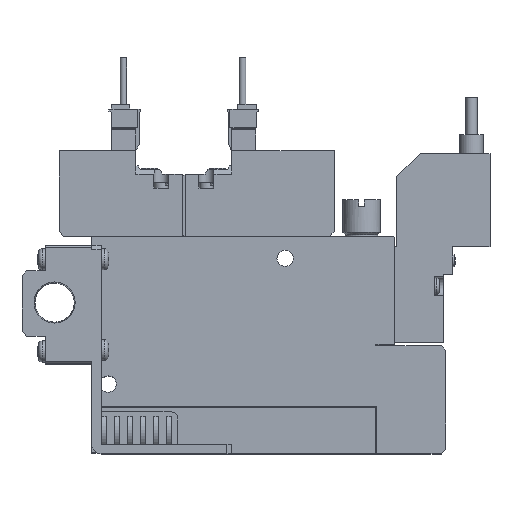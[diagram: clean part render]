
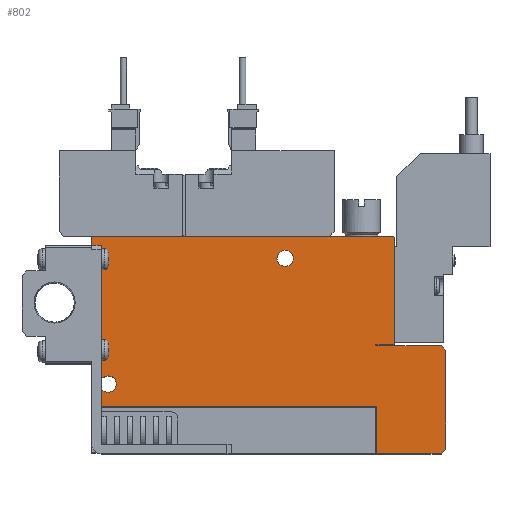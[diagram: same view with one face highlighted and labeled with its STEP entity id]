
A CAD part, top view. The second image highlights one B-rep face of the part: STEP entity #802.
In plain terms, the highlighted planar face has unit normal (0, 0, 1).
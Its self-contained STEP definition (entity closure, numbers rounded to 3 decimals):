
#802=ADVANCED_FACE('',(#1915,#1916,#1917),#1918,.F.);
#1915=FACE_OUTER_BOUND('',#3261,.T.);
#1916=FACE_BOUND('',#3262,.T.);
#1917=FACE_BOUND('',#3263,.T.);
#1918=PLANE('',#3264);
#3261=EDGE_LOOP('',(#7278,#7279,#7280,#7281,#7282,#7283,#7284,#7285,#7286,#7287,#7288,#7289,#7290,#7291));
#3262=EDGE_LOOP('',(#7292));
#3263=EDGE_LOOP('',(#7293));
#3264=AXIS2_PLACEMENT_3D('',#7294,#7295,#7296);
#7278=ORIENTED_EDGE('',*,*,#9471,.T.);
#7279=ORIENTED_EDGE('',*,*,#9691,.F.);
#7280=ORIENTED_EDGE('',*,*,#9660,.F.);
#7281=ORIENTED_EDGE('',*,*,#9683,.T.);
#7282=ORIENTED_EDGE('',*,*,#9372,.T.);
#7283=ORIENTED_EDGE('',*,*,#9684,.T.);
#7284=ORIENTED_EDGE('',*,*,#9665,.T.);
#7285=ORIENTED_EDGE('',*,*,#9694,.T.);
#7286=ORIENTED_EDGE('',*,*,#9672,.T.);
#7287=ORIENTED_EDGE('',*,*,#9669,.T.);
#7288=ORIENTED_EDGE('',*,*,#9513,.T.);
#7289=ORIENTED_EDGE('',*,*,#9690,.T.);
#7290=ORIENTED_EDGE('',*,*,#9582,.T.);
#7291=ORIENTED_EDGE('',*,*,#9580,.T.);
#7292=ORIENTED_EDGE('',*,*,#9469,.F.);
#7293=ORIENTED_EDGE('',*,*,#9569,.F.);
#7294=CARTESIAN_POINT('',(0.0,0.0,5.0));
#7295=DIRECTION('',(0.0,0.0,-1.0));
#7296=DIRECTION('',(0.0,-1.0,0.0));
#9372=EDGE_CURVE('',#11489,#11487,#11490,.T.);
#9469=EDGE_CURVE('',#11667,#11667,#11668,.T.);
#9471=EDGE_CURVE('',#11671,#11669,#11672,.T.);
#9513=EDGE_CURVE('',#11745,#11743,#11746,.T.);
#9569=EDGE_CURVE('',#11838,#11838,#11839,.T.);
#9580=EDGE_CURVE('',#11859,#11671,#11860,.T.);
#9582=EDGE_CURVE('',#11862,#11859,#11863,.T.);
#9660=EDGE_CURVE('',#11978,#11980,#11981,.T.);
#9665=EDGE_CURVE('',#11987,#11985,#11988,.T.);
#9669=EDGE_CURVE('',#11992,#11745,#11993,.T.);
#9672=EDGE_CURVE('',#11996,#11992,#11997,.T.);
#9683=EDGE_CURVE('',#11978,#11489,#12012,.T.);
#9684=EDGE_CURVE('',#11487,#11987,#12013,.T.);
#9690=EDGE_CURVE('',#11743,#11862,#12019,.T.);
#9691=EDGE_CURVE('',#11980,#11669,#12020,.T.);
#9694=EDGE_CURVE('',#11985,#11996,#12023,.T.);
#11487=VERTEX_POINT('',#15023);
#11489=VERTEX_POINT('',#15026);
#11490=LINE('',#15027,#15028);
#11667=VERTEX_POINT('',#15342);
#11668=CIRCLE('',#15343,1.75);
#11669=VERTEX_POINT('',#15344);
#11671=VERTEX_POINT('',#15347);
#11672=LINE('',#15348,#15349);
#11743=VERTEX_POINT('',#15488);
#11745=VERTEX_POINT('',#15491);
#11746=LINE('',#15492,#15493);
#11838=VERTEX_POINT('',#15645);
#11839=CIRCLE('',#15646,1.75);
#11859=VERTEX_POINT('',#15675);
#11860=LINE('',#15676,#15677);
#11862=VERTEX_POINT('',#15680);
#11863=LINE('',#15681,#15682);
#11978=VERTEX_POINT('',#15861);
#11980=VERTEX_POINT('',#15864);
#11981=LINE('',#15865,#15866);
#11985=VERTEX_POINT('',#15873);
#11987=VERTEX_POINT('',#15876);
#11988=LINE('',#15877,#15878);
#11992=VERTEX_POINT('',#15884);
#11993=LINE('',#15885,#15886);
#11996=VERTEX_POINT('',#15891);
#11997=LINE('',#15892,#15893);
#12012=LINE('',#15916,#15917);
#12013=LINE('',#15918,#15919);
#12019=LINE('',#15929,#15930);
#12020=LINE('',#15931,#15932);
#12023=LINE('',#15937,#15938);
#15023=CARTESIAN_POINT('',(76.0,1.0,5.0));
#15026=CARTESIAN_POINT('',(75.0,0.0,5.0));
#15027=CARTESIAN_POINT('',(75.0,0.0,5.0));
#15028=VECTOR('',#18347,1.0);
#15342=CARTESIAN_POINT('',(5.25,15.0,5.0));
#15343=AXIS2_PLACEMENT_3D('',#18490,#18491,#18492);
#15344=CARTESIAN_POINT('',(0.0,10.1,5.0));
#15347=CARTESIAN_POINT('',(0.0,46.4,5.0));
#15348=CARTESIAN_POINT('',(0.0,46.4,5.0));
#15349=VECTOR('',#18494,1.0);
#15488=CARTESIAN_POINT('',(65.0,46.4,5.0));
#15491=CARTESIAN_POINT('',(65.0,23.5,5.0));
#15492=CARTESIAN_POINT('',(65.0,23.5,5.0));
#15493=VECTOR('',#18544,1.0);
#15645=CARTESIAN_POINT('',(43.25,42.0,5.0));
#15646=AXIS2_PLACEMENT_3D('',#18622,#18623,#18624);
#15675=CARTESIAN_POINT('',(0.2,46.6,5.0));
#15676=CARTESIAN_POINT('',(0.2,46.6,5.0));
#15677=VECTOR('',#18637,1.0);
#15680=CARTESIAN_POINT('',(64.8,46.6,5.0));
#15681=CARTESIAN_POINT('',(64.8,46.6,5.0));
#15682=VECTOR('',#18639,1.0);
#15861=CARTESIAN_POINT('',(61.1,0.0,5.0));
#15864=CARTESIAN_POINT('',(61.1,10.1,5.0));
#15865=CARTESIAN_POINT('',(61.1,0.0,5.0));
#15866=VECTOR('',#18741,1.0);
#15873=CARTESIAN_POINT('',(75.0,23.25,5.0));
#15876=CARTESIAN_POINT('',(76.0,22.25,5.0));
#15877=CARTESIAN_POINT('',(76.0,22.25,5.0));
#15878=VECTOR('',#18746,1.0);
#15884=CARTESIAN_POINT('',(61.0,23.5,5.0));
#15885=CARTESIAN_POINT('',(61.0,23.5,5.0));
#15886=VECTOR('',#18752,1.0);
#15891=CARTESIAN_POINT('',(61.0,23.25,5.0));
#15892=CARTESIAN_POINT('',(61.0,23.25,5.0));
#15893=VECTOR('',#18755,1.0);
#15916=CARTESIAN_POINT('',(0.0,0.0,5.0));
#15917=VECTOR('',#18770,1.0);
#15918=CARTESIAN_POINT('',(76.0,1.0,5.0));
#15919=VECTOR('',#18771,1.0);
#15929=CARTESIAN_POINT('',(65.0,46.4,5.0));
#15930=VECTOR('',#18779,1.0);
#15931=CARTESIAN_POINT('',(61.1,10.1,5.0));
#15932=VECTOR('',#18780,1.0);
#15937=CARTESIAN_POINT('',(75.0,23.25,5.0));
#15938=VECTOR('',#18783,1.0);
#18347=DIRECTION('',(0.707,0.707,0.0));
#18490=CARTESIAN_POINT('',(3.5,15.0,5.0));
#18491=DIRECTION('',(0.0,0.0,1.0));
#18492=DIRECTION('',(1.0,0.0,0.0));
#18494=DIRECTION('',(0.0,-1.0,0.0));
#18544=DIRECTION('',(0.0,1.0,0.0));
#18622=CARTESIAN_POINT('',(41.5,42.0,5.0));
#18623=DIRECTION('',(0.0,0.0,1.0));
#18624=DIRECTION('',(1.0,0.0,0.0));
#18637=DIRECTION('',(-0.707,-0.707,0.0));
#18639=DIRECTION('',(-1.0,0.0,0.0));
#18741=DIRECTION('',(0.0,1.0,0.0));
#18746=DIRECTION('',(-0.707,0.707,0.0));
#18752=DIRECTION('',(1.0,0.,0.0));
#18755=DIRECTION('',(0.0,1.0,0.0));
#18770=DIRECTION('',(1.0,0.0,0.0));
#18771=DIRECTION('',(0.0,1.0,0.0));
#18779=DIRECTION('',(-0.707,0.707,0.0));
#18780=DIRECTION('',(-1.0,0.0,0.0));
#18783=DIRECTION('',(-1.0,0.0,0.0));
